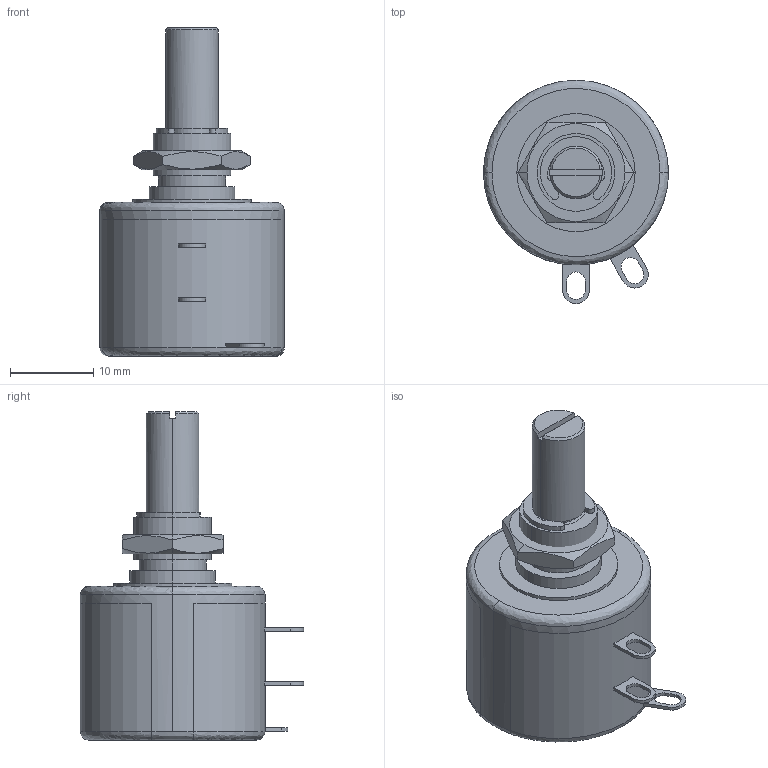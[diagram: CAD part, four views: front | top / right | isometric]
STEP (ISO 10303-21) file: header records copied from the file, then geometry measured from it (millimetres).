
FILE_DESCRIPTION (( 'STEP AP203' ), '1' );
FILE_NAME ('Potentiometer - VISHAY SPECTROL 534.STEP', '2017-01-26T09:03:10', ( '' ), ( '' ), 'SwSTEP 2.0', 'SolidWorks 2015', '' );
FILE_SCHEMA (( 'CONFIG_CONTROL_DESIGN' ));
Length unit declared in the file: millimetre
Products named in the file (8): Potentiometer Pin; 3,8 - 32UNEF Hex Nut; Potentiometer Base Cover; Potentiometer - VISHAY SPECTROL 534; Potentiometer Threaded Tube; Potentiometer Shaft; ASME B27.8M 3FM1-7; Potentiometer Housing
Assembly tree (9 placements, depth 2):
  Potentiometer - VISHAY SPECTROL 534
    Potentiometer Housing
    Potentiometer Pin  x3
    Potentiometer Base Cover
    Potentiometer Threaded Tube
    Potentiometer Shaft
    ASME B27.8M 3FM1-7
    3,8 - 32UNEF Hex Nut
Bounding box: 22.22 x 26.87 x 39.5 mm (x, y, z)
Volume: 8301.4 mm3; surface area: 4830.8 mm2
Topology: 9 solids, 9 shells, 137 faces, 334 edges, 220 vertices
Faces by surface type: plane 67, cylinder 52, bspline 12, cone 6
Entity records: 4763 total; most frequent: CARTESIAN_POINT 1117, DIRECTION 586, ORIENTED_EDGE 572, EDGE_CURVE 286, AXIS2_PLACEMENT_3D 225, VERTEX_POINT 188, VECTOR 136, LINE 136
